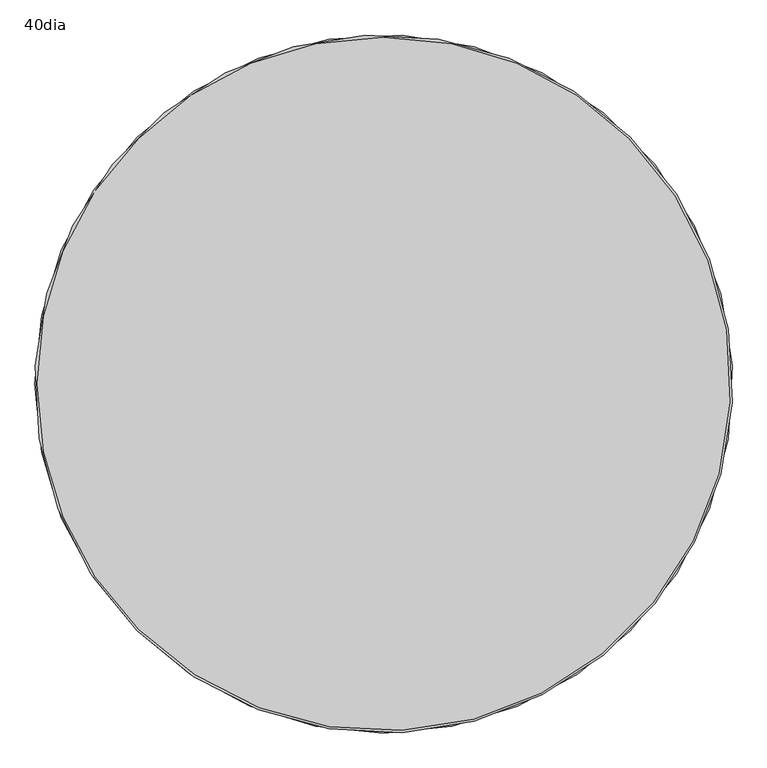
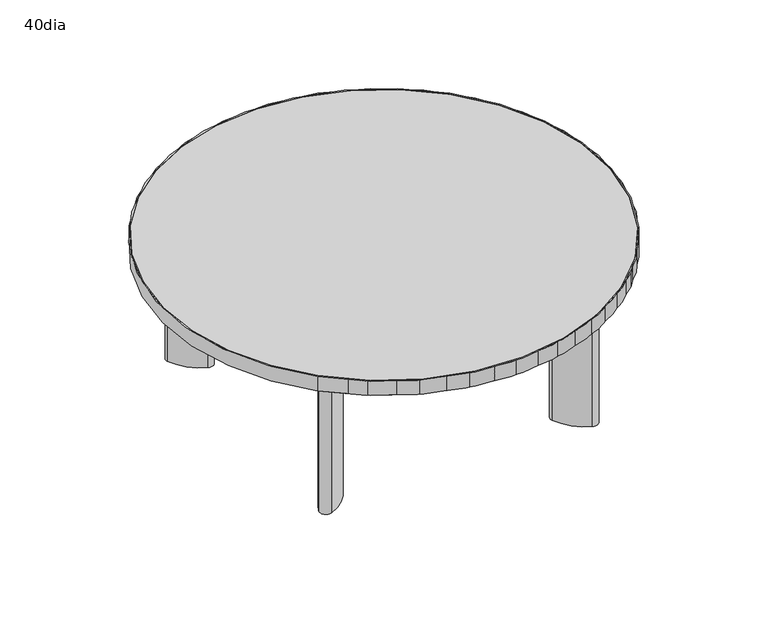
"""IFC4 building model written with IfcOpenShell, lengths in millimetres: furniture geometry, West Elm Work Collection - Boardwalk - Occasional Table - Round : 40dia."""

from ifc_helpers import new_model, si_unit, point, frame, frame_2d, origin, origin_with_axes, place, context, project, spatial, polyline, circle_curve, trimmed, segment, composite_curve, outline, extrude, source, transform, mapped, element, save


def furniture_40dia_1837112c(model_context):
    return source(origin(), model_context, "Body", "SweptSolid", [
        extrude(outline(composite_curve([segment(trimmed(circle_curve(frame_2d((498.1087535, -453.2194647)), 12.7), [point((507.0890096, -444.2392086))], [point((507.0890096, -462.1997209))], False, "CARTESIAN"), True, "CONTINUOUS"), segment(polyline([(507.0890096, -462.1997209), (453.2075044, -516.0812261)]), True, "CONTINUOUS"), segment(trimmed(circle_curve(frame_2d((444.2272483, -507.1009699)), 12.7), [point((453.2075044, -516.0812261))], [point((435.2469922, -516.0812261))], False, "CARTESIAN"), True, "CONTINUOUS"), segment(polyline([(435.2469922, -516.0812261), (345.44446, -426.278694)]), True, "CONTINUOUS"), segment(trimmed(circle_curve(frame_2d((354.4247162, -417.2984378)), 12.7), [point((345.44446, -426.278694))], [point((345.44446, -408.3181817))], False, "CARTESIAN"), True, "CONTINUOUS"), segment(polyline([(345.44446, -408.3181817), (399.3259653, -354.4366765)]), True, "CONTINUOUS"), segment(trimmed(circle_curve(frame_2d((408.3062214, -363.4169326)), 12.7), [point((399.3259653, -354.4366765))], [point((417.2864775, -354.4366765))], False, "CARTESIAN"), True, "CONTINUOUS"), segment(polyline([(417.2864775, -354.4366765), (507.0890096, -444.2392086)]), True, "CONTINUOUS")], self_intersect=False)), frame((0.0, 0.0, 347.1389893), z_axis=(0.0, 0.0, 1.0), x_axis=(1.0, 0.0, 0.0)), (0.0, 0.0, 1.0), 3.0000167),
        extrude(outline(composite_curve([segment(polyline([(-142.8301548, 205.6799558), (-53.0276226, 115.8774237)]), True, "CONTINUOUS"), segment(trimmed(circle_curve(frame_2d((-62.0078788, 106.8971675)), 12.7), [point((-53.0276226, 115.8774237))], [point((-53.0276226, 97.9169114))], False, "CARTESIAN"), True, "CONTINUOUS"), segment(polyline([(-53.0276226, 97.9169114), (-106.9091279, 44.0354062)]), True, "CONTINUOUS"), segment(trimmed(circle_curve(frame_2d((-115.889384, 53.0156623)), 12.7), [point((-106.9091279, 44.0354062))], [point((-124.8696401, 44.0354062))], False, "CARTESIAN"), True, "CONTINUOUS"), segment(polyline([(-124.8696401, 44.0354062), (-214.6721722, 133.8379383)]), True, "CONTINUOUS"), segment(trimmed(circle_curve(frame_2d((-205.6919161, 142.8181944)), 12.7), [point((-214.6721722, 133.8379383))], [point((-214.6721722, 151.7984505))], False, "CARTESIAN"), True, "CONTINUOUS"), segment(polyline([(-214.6721722, 151.7984505), (-160.790667, 205.6799558)]), True, "CONTINUOUS"), segment(trimmed(circle_curve(frame_2d((-151.8104109, 196.6996996)), 12.7), [point((-160.790667, 205.6799558))], [point((-142.8301548, 205.6799558))], False, "CARTESIAN"), True, "CONTINUOUS")], self_intersect=False)), frame((0.0, 0.0, 347.1389893), z_axis=(0.0, 0.0, 1.0), x_axis=(1.0, 0.0, 0.0)), (0.0, 0.0, 1.0), 3.0000167),
        extrude(outline(composite_curve([segment(trimmed(circle_curve(frame_2d((146.8660917, -162.2080902)), 508.0), [point((506.0763366, 197.0021547))], [point((-212.3441531, -521.418335))], False, "CARTESIAN"), True, "CONTINUOUS"), segment(trimmed(circle_curve(frame_2d((146.8660917, -162.2080902)), 508.0), [point((-212.3441531, -521.418335))], [point((506.0763366, 197.0021547))], False, "CARTESIAN"), True, "CONTINUOUS")], self_intersect=False), holes=[composite_curve([segment(trimmed(circle_curve(frame_2d((146.8660917, -162.2080902)), 504.952), [point((503.9210751, 194.8468932))], [point((-210.1888916, -519.2630736))], True, "CARTESIAN"), True, "CONTINUOUS"), segment(trimmed(circle_curve(frame_2d((146.8660917, -162.2080902)), 504.952), [point((-210.1888916, -519.2630736))], [point((503.9210751, 194.8468932))], True, "CARTESIAN"), True, "CONTINUOUS")], self_intersect=False)]), frame((0.0, 0.0, 350.1390061), z_axis=(0.0, 0.0, 1.0), x_axis=(1.0, 0.0, 0.0)), (0.0, 0.0, 1.0), 34.9249939),
        extrude(outline(composite_curve([segment(trimmed(circle_curve(frame_2d((-132.405686, -434.2449469)), 11.43), [point((-124.3234555, -426.1627163))], [point((-140.4879166, -442.3271774))], False, "CARTESIAN"), True, "CONTINUOUS"), segment(trimmed(circle_curve(frame_2d((-132.405686, -434.2449469)), 11.43), [point((-140.4879166, -442.3271774))], [point((-124.3234555, -426.1627163))], False, "CARTESIAN"), True, "CONTINUOUS")], self_intersect=False)), origin_with_axes(), (0.0, 0.0, 1.0), 3.9975031),
        extrude(outline(composite_curve([segment(trimmed(circle_curve(frame_2d((426.3103506, -434.0223358)), 11.43), [point((434.3925811, -425.9401053))], [point((418.22812, -442.1045663))], False, "CARTESIAN"), True, "CONTINUOUS"), segment(trimmed(circle_curve(frame_2d((426.3103506, -434.0223358)), 11.43), [point((418.22812, -442.1045663))], [point((434.3925811, -425.9401053))], False, "CARTESIAN"), True, "CONTINUOUS")], self_intersect=False)), origin_with_axes(), (0.0, 0.0, 1.0), 3.9975031),
        extrude(outline(composite_curve([segment(trimmed(circle_curve(frame_2d((-132.5992494, 124.9924568)), 11.43), [point((-124.5170189, 133.0746873))], [point((-140.6814799, 116.9102263))], False, "CARTESIAN"), True, "CONTINUOUS"), segment(trimmed(circle_curve(frame_2d((-132.5992494, 124.9924568)), 11.43), [point((-140.6814799, 116.9102263))], [point((-124.5170189, 133.0746873))], False, "CARTESIAN"), True, "CONTINUOUS")], self_intersect=False)), origin_with_axes(), (0.0, 0.0, 1.0), 3.9975031),
        extrude(outline(composite_curve([segment(trimmed(circle_curve(frame_2d((426.2709533, 125.1818014)), 11.43), [point((434.3531838, 133.2640319))], [point((418.1887228, 117.0995709))], False, "CARTESIAN"), True, "CONTINUOUS"), segment(trimmed(circle_curve(frame_2d((426.2709533, 125.1818014)), 11.43), [point((418.1887228, 117.0995709))], [point((434.3531838, 133.2640319))], False, "CARTESIAN"), True, "CONTINUOUS")], self_intersect=False)), origin_with_axes(), (0.0, 0.0, 1.0), 3.9975031),
        extrude(outline(composite_curve([segment(polyline([(-211.7693262, -442.6517086), (-121.966794, -352.8491765)]), True, "CONTINUOUS"), segment(trimmed(circle_curve(frame_2d((-112.9865379, -361.8294326)), 12.7), [point((-121.966794, -352.8491765))], [point((-104.0062818, -352.8491765))], False, "CARTESIAN"), True, "CONTINUOUS"), segment(polyline([(-104.0062818, -352.8491765), (-50.1247766, -406.7306817)]), True, "CONTINUOUS"), segment(trimmed(circle_curve(frame_2d((-59.1050327, -415.7109378)), 12.7), [point((-50.1247766, -406.7306817))], [point((-50.1247766, -424.691194))], False, "CARTESIAN"), True, "CONTINUOUS"), segment(polyline([(-50.1247766, -424.691194), (-139.9273087, -514.4937261)]), True, "CONTINUOUS"), segment(trimmed(circle_curve(frame_2d((-148.9075648, -505.5134699)), 12.7), [point((-139.9273087, -514.4937261))], [point((-157.8878209, -514.4937261))], False, "CARTESIAN"), True, "CONTINUOUS"), segment(polyline([(-157.8878209, -514.4937261), (-211.7693262, -460.6122209)]), True, "CONTINUOUS"), segment(trimmed(circle_curve(frame_2d((-202.78907, -451.6319647)), 12.7), [point((-211.7693262, -460.6122209))], [point((-211.7693262, -442.6517086))], False, "CARTESIAN"), True, "CONTINUOUS")], self_intersect=False)), frame((0.0, 0.0, 347.1389893), z_axis=(0.0, 0.0, 1.0), x_axis=(1.0, 0.0, 0.0)), (0.0, 0.0, 1.0), 3.0000167),
        extrude(outline(composite_curve([segment(trimmed(circle_curve(frame_2d((443.6827224, 198.0148277)), 12.7), [point((434.7024663, 206.9950838))], [point((452.6629785, 206.9950838))], False, "CARTESIAN"), True, "CONTINUOUS"), segment(polyline([(452.6629785, 206.9950838), (506.5444837, 153.1135786)]), True, "CONTINUOUS"), segment(trimmed(circle_curve(frame_2d((497.5642276, 144.1333225)), 12.7), [point((506.5444837, 153.1135786))], [point((506.5444837, 135.1530664))], False, "CARTESIAN"), True, "CONTINUOUS"), segment(polyline([(506.5444837, 135.1530664), (416.7419516, 45.3505343)]), True, "CONTINUOUS"), segment(trimmed(circle_curve(frame_2d((407.7616955, 54.3307904)), 12.7), [point((416.7419516, 45.3505343))], [point((398.7814394, 45.3505343))], False, "CARTESIAN"), True, "CONTINUOUS"), segment(polyline([(398.7814394, 45.3505343), (344.8999342, 99.2320395)]), True, "CONTINUOUS"), segment(trimmed(circle_curve(frame_2d((353.8801903, 108.2122956)), 12.7), [point((344.8999342, 99.2320395))], [point((344.8999342, 117.1925517))], False, "CARTESIAN"), True, "CONTINUOUS"), segment(polyline([(344.8999342, 117.1925517), (434.7024663, 206.9950838)]), True, "CONTINUOUS")], self_intersect=False)), frame((0.0, 0.0, 347.1389893), z_axis=(0.0, 0.0, 1.0), x_axis=(1.0, 0.0, 0.0)), (0.0, 0.0, 1.0), 3.0000167),
        extrude(outline(composite_curve([segment(trimmed(circle_curve(frame_2d((146.8660917, -162.2080902)), 508.0), [point((-212.3441531, 197.0021547))], [point((506.0763366, -521.418335))], False, "CARTESIAN"), True, "CONTINUOUS"), segment(trimmed(circle_curve(frame_2d((146.8660917, -162.2080902)), 508.0), [point((506.0763366, -521.418335))], [point((-212.3441531, 197.0021547))], False, "CARTESIAN"), True, "CONTINUOUS")], self_intersect=False)), frame((0.0, 0.0, 350.1390061), z_axis=(0.0, 0.0, 1.0), x_axis=(1.0, 0.0, 0.0)), (0.0, 0.0, 1.0), 34.9249939),
        extrude(outline(composite_curve([segment(trimmed(circle_curve(frame_2d((-190.1240557, 68.2201559)), 102.3637201), [point((-153.4187449, 163.7766908))], [point((-94.477778, 104.6909765))], False, "CARTESIAN"), True, "CONTINUOUS"), segment(trimmed(circle_curve(frame_2d((-108.1457263, 99.4792599)), 14.6278775), [point((-94.477778, 104.6909765))], [point((-113.7062349, 85.9494578))], False, "CARTESIAN"), True, "CONTINUOUS"), segment(trimmed(circle_curve(frame_2d((-72.7567256, 185.5876026)), 107.7247521), [point((-113.7062349, 85.9494578))], [point((-172.2998712, 144.4076999))], False, "CARTESIAN"), True, "CONTINUOUS"), segment(trimmed(circle_curve(frame_2d((-158.6972382, 150.0349593)), 14.7206547), [point((-172.2998712, 144.4076999))], [point((-153.4187449, 163.7766908))], False, "CARTESIAN"), True, "CONTINUOUS")], self_intersect=False)), frame((0.0, 0.0, 3.9975031), z_axis=(0.0, 0.0, 1.0), x_axis=(1.0, 0.0, 0.0)), (0.0, 0.0, 1.0), 343.1414862),
        extrude(outline(composite_curve([segment(trimmed(circle_curve(frame_2d((451.4035797, -460.1208756)), 14.7206547), [point((465.1453112, -454.8423824))], [point((445.7763203, -473.7235086))], False, "CARTESIAN"), True, "CONTINUOUS"), segment(trimmed(circle_curve(frame_2d((486.956223, -374.1803631)), 107.7247521), [point((445.7763203, -473.7235086))], [point((387.3180782, -415.1298723))], False, "CARTESIAN"), True, "CONTINUOUS"), segment(trimmed(circle_curve(frame_2d((400.8478803, -409.5693638)), 14.6278775), [point((387.3180782, -415.1298723))], [point((406.0595969, -395.9014154))], False, "CARTESIAN"), True, "CONTINUOUS"), segment(trimmed(circle_curve(frame_2d((369.5887763, -491.5476931)), 102.3637201), [point((406.0595969, -395.9014154))], [point((465.1453112, -454.8423824))], False, "CARTESIAN"), True, "CONTINUOUS")], self_intersect=False)), frame((0.0, 0.0, 3.9975031), z_axis=(0.0, 0.0, 1.0), x_axis=(1.0, 0.0, 0.0)), (0.0, 0.0, 1.0), 343.1414862),
        extrude(outline(composite_curve([segment(trimmed(circle_curve(frame_2d((450.9619782, 148.1461863)), 14.7206547), [point((445.683485, 161.8879177))], [point((464.5646112, 142.5189268))], False, "CARTESIAN"), True, "CONTINUOUS"), segment(trimmed(circle_curve(frame_2d((365.0214657, 183.6988296)), 107.7247521), [point((464.5646112, 142.5189268))], [point((405.9709749, 84.0606847))], False, "CARTESIAN"), True, "CONTINUOUS"), segment(trimmed(circle_curve(frame_2d((400.4104664, 97.5904869)), 14.6278775), [point((405.9709749, 84.0606847))], [point((386.742518, 102.8022035))], False, "CARTESIAN"), True, "CONTINUOUS"), segment(trimmed(circle_curve(frame_2d((482.3887957, 66.3313829)), 102.3637201), [point((386.742518, 102.8022035))], [point((445.683485, 161.8879177))], False, "CARTESIAN"), True, "CONTINUOUS")], self_intersect=False)), frame((0.0, 0.0, 3.9975031), z_axis=(0.0, 0.0, 1.0), x_axis=(1.0, 0.0, 0.0)), (0.0, 0.0, 1.0), 343.1414862),
        extrude(outline(composite_curve([segment(trimmed(circle_curve(frame_2d((-76.3676166, -490.9880004)), 102.3637201), [point((-171.9241515, -454.2826896))], [point((-112.8384372, -395.3417227))], False, "CARTESIAN"), True, "CONTINUOUS"), segment(trimmed(circle_curve(frame_2d((-107.6267206, -409.0096711)), 14.6278775), [point((-112.8384372, -395.3417227))], [point((-94.0969185, -414.5701796))], False, "CARTESIAN"), True, "CONTINUOUS"), segment(trimmed(circle_curve(frame_2d((-193.7350633, -373.6206704)), 107.7247521), [point((-94.0969185, -414.5701796))], [point((-152.5551606, -473.1638159))], False, "CARTESIAN"), True, "CONTINUOUS"), segment(trimmed(circle_curve(frame_2d((-158.18242, -459.5611829)), 14.7206547), [point((-152.5551606, -473.1638159))], [point((-171.9241515, -454.2826896))], False, "CARTESIAN"), True, "CONTINUOUS")], self_intersect=False)), frame((0.0, 0.0, 3.9975031), z_axis=(0.0, 0.0, 1.0), x_axis=(1.0, 0.0, 0.0)), (0.0, 0.0, 1.0), 343.1414862),
    ])


if __name__ == "__main__":
    model = new_model("IFC4")
    model_context = context("Model", 3, world=origin())
    ifc_project = project(units=[si_unit("LENGTHUNIT", "METRE", prefix="MILLI")], contexts=[model_context])
    site = spatial("IfcSite", under=ifc_project)
    building = spatial("IfcBuilding", under=site)
    placement = place(None, origin())
    furniture_40dia_shape = furniture_40dia_1837112c(model_context)
    element("IfcFurniture", 1, ObjectType="West Elm Work Collection - Boardwalk - Occasional Table - Round : 40dia", at=placement, inside=building, context=model_context, shape_type="MappedRepresentation", body=[
        mapped(furniture_40dia_shape, transform((0.0, 0.0, 0.0), x_axis=(1.0, 0.0, 0.0), y_axis=(0.0, 1.0, 0.0), z_axis=(0.0, 0.0, 1.0))),
    ])
    save(model, "model.ifc")
